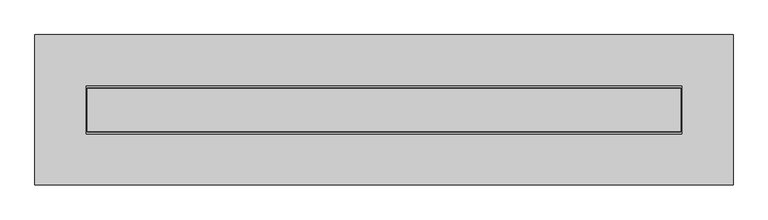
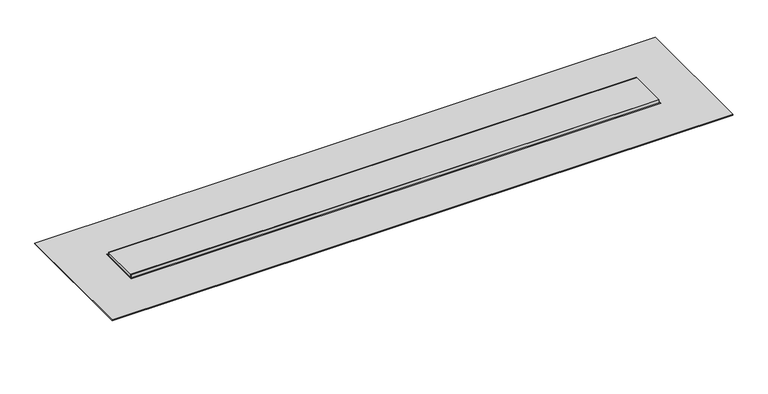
"""IFC4 building model written with IfcOpenShell, lengths in millimetres: sanitary terminal geometry, NLRS_PF_52_UN_Multi TAF in_uitloop_Easydrain : Multi TAF zijuitloop hoog 50mm, zij-ingang 40mm."""

import ifcopenshell
import ifcopenshell.guid

model = None  # the IFC model being written
_history = None  # IfcOwnerHistory: only IFC2X3 demands one
_inside = {}  # id of a spatial element -> (the spatial element, [elements in it])
_under = {}  # id of a project, library or spatial element -> (it, [spatial elements below it])
_declared = {}  # id of a project -> (the project, [libraries it declares])
_typed = {}  # id of a type object -> (the type object, [elements of that type])
_made_of = {}  # id of a material, layer set ... -> (it, [elements and type objects made of it])


def new_model(schema):
    """Start an empty IFC model of exactly this schema.

    Asked for "IFC4X3", IfcOpenShell would pick the latest addendum, in which some entities
    have other attributes; the version numbers below select the first issue.
    IFC2X3 requires an IfcOwnerHistory on every rooted entity: one is made here for all.
    """
    global model, _history
    if schema == "IFC4X3":
        model = ifcopenshell.file(schema_version=(4, 3, 0, 0))
    else:
        model = ifcopenshell.file(schema=schema)
    _inside.clear()
    _under.clear()
    _declared.clear()
    _typed.clear()
    _made_of.clear()
    _history = None
    if model.schema == "IFC2X3":
        org = make("IfcOrganization", Name="unknown")
        user = make(
            "IfcPersonAndOrganization",
            ThePerson=make("IfcPerson", FamilyName="unknown"),
            TheOrganization=org,
        )
        app = make(
            "IfcApplication",
            ApplicationDeveloper=org,
            Version="unknown",
            ApplicationFullName="unknown",
            ApplicationIdentifier="unknown",
        )
        _history = make(
            "IfcOwnerHistory",
            OwningUser=user,
            OwningApplication=app,
            ChangeAction="ADDED",
            CreationDate=0,
        )
    return model


def make(cls, **values):
    """One entity of the class cls with the attributes given. An attribute that is None is left unset."""
    return model.create_entity(
        cls, **{name: value for name, value in values.items() if value is not None}
    )


def rooted(cls, **values):
    """An entity with a GlobalId (a new one), such as an element, a storey or a relation."""
    return make(cls, GlobalId=ifcopenshell.guid.new(), OwnerHistory=_history, **values)


def si_unit(unit_type, name, prefix=None):
    """IfcSIUnit, for example si_unit("LENGTHUNIT", "METRE", prefix="MILLI")."""
    return make("IfcSIUnit", UnitType=unit_type, Prefix=prefix, Name=name)


def assignment(units):
    """IfcUnitAssignment: the units of a project."""
    return None if units is None else make("IfcUnitAssignment", Units=units)


def point(xyz):
    """IfcCartesianPoint."""
    return None if xyz is None else make("IfcCartesianPoint", Coordinates=xyz)


def direction(xyz):
    """IfcDirection."""
    return None if xyz is None else make("IfcDirection", DirectionRatios=xyz)


def frame(location, z_axis=None, x_axis=None):
    """IfcAxis2Placement3D, a coordinate frame: its origin and axes. An axis left out is left unset."""
    return make(
        "IfcAxis2Placement3D",
        Location=point(location),
        Axis=direction(z_axis),
        RefDirection=direction(x_axis),
    )


def origin():
    """The frame at (0, 0, 0) with its axes left unset."""
    return frame((0.0, 0.0, 0.0))


def place(relative_to, where):
    """IfcLocalPlacement: puts the frame where relative to a parent placement (None: the world)."""
    return make(
        "IfcLocalPlacement", PlacementRelTo=relative_to, RelativePlacement=where
    )


def context(
    kind, dimensions, precision=None, world=None, true_north=None, identifier=None
):
    """IfcGeometricRepresentationContext, for example the 3D "Model" context."""
    return make(
        "IfcGeometricRepresentationContext",
        ContextIdentifier=identifier,
        ContextType=kind,
        CoordinateSpaceDimension=dimensions,
        Precision=precision,
        WorldCoordinateSystem=world,
        TrueNorth=true_north,
    )


def project(units=None, contexts=None):
    """IfcProject with its units and contexts."""
    return rooted(
        "IfcProject",
        Name="project",
        RepresentationContexts=contexts,
        UnitsInContext=assignment(units),
    )


def spatial(cls, under=None, at=None, **own):
    """A site, building, storey or space (cls), placed at a placement, below another one or the project."""
    s = rooted(cls, ObjectPlacement=at, **own)
    if under is not None:
        _under.setdefault(under.id(), (under, []))[1].append(s)
    return s


def polyline(points):
    """IfcPolyline through the points."""
    return make("IfcPolyline", Points=[point(p) for p in points])


def circle_curve(where, radius):
    """IfcCircle in the frame where."""
    return make("IfcCircle", Position=where, Radius=radius)


def outline(outer, holes=None, kind="AREA"):
    """IfcArbitraryClosedProfileDef: a profile drawn as a closed curve; with holes, ...WithVoids."""
    if holes is None:
        return make("IfcArbitraryClosedProfileDef", ProfileType=kind, OuterCurve=outer)
    return make(
        "IfcArbitraryProfileDefWithVoids",
        ProfileType=kind,
        OuterCurve=outer,
        InnerCurves=holes,
    )


def extrude(swept, where, along, depth):
    """IfcExtrudedAreaSolid: the profile swept, set in the frame where, extruded along a direction by depth."""
    return make(
        "IfcExtrudedAreaSolid",
        SweptArea=swept,
        Position=where,
        ExtrudedDirection=direction(along),
        Depth=depth,
    )


def faces_of(points, faces, orient=None, outer=None):
    """IfcFace entities. A face is a list of loops; a loop is a list of indices into points, from 0.

    orient and outer hold one flag for each loop. By default every Orientation is true, the
    first loop of a face is its IfcFaceOuterBound and the others are IfcFaceBound.
    """
    made = []
    for i, loops in enumerate(faces):
        bounds = []
        for j, loop in enumerate(loops):
            is_outer = j == 0 if outer is None else outer[i][j]
            bounds.append(
                make(
                    "IfcFaceOuterBound" if is_outer else "IfcFaceBound",
                    Bound=make("IfcPolyLoop", Polygon=[points[k] for k in loop]),
                    Orientation=True if orient is None else orient[i][j],
                )
            )
        made.append(make("IfcFace", Bounds=bounds))
    return made


def faceted_brep(points, faces, orient=None, outer=None, voids=None):
    """IfcFacetedBrep: a solid bounded by flat faces; with voids (closed shells), ...WithVoids."""
    shared = [point(p) for p in points]
    hull = make("IfcClosedShell", CfsFaces=faces_of(shared, faces, orient, outer))
    if voids is None:
        return make("IfcFacetedBrep", Outer=hull)
    return make(
        "IfcFacetedBrepWithVoids",
        Outer=hull,
        Voids=[
            make(cls, CfsFaces=faces_of(shared, fs, o, b)) for cls, fs, o, b in voids
        ],
    )


def shape(context_of_items, identifier, shape_type, items):
    """IfcShapeRepresentation: the items that make up one representation, for example the "Body"."""
    return make(
        "IfcShapeRepresentation",
        ContextOfItems=context_of_items,
        RepresentationIdentifier=identifier,
        RepresentationType=shape_type,
        Items=items,
    )


def source(mapping_origin, context_of_items, identifier, shape_type, items):
    """IfcRepresentationMap: a shape defined once, which mapped items show again and again."""
    return make(
        "IfcRepresentationMap",
        MappingOrigin=mapping_origin,
        MappedRepresentation=shape(context_of_items, identifier, shape_type, items),
    )


def transform(
    local_origin,
    x_axis=None,
    y_axis=None,
    z_axis=None,
    scale=None,
    scale2=None,
    scale3=None,
    uniform=True,
):
    """IfcCartesianTransformationOperator3D, or its non-uniform kind. x_axis, y_axis, z_axis: its Axis1, 2, 3."""
    if uniform:
        return make(
            "IfcCartesianTransformationOperator3D",
            Axis1=direction(x_axis),
            Axis2=direction(y_axis),
            LocalOrigin=point(local_origin),
            Scale=scale,
            Axis3=direction(z_axis),
        )
    return make(
        "IfcCartesianTransformationOperator3DnonUniform",
        Axis1=direction(x_axis),
        Axis2=direction(y_axis),
        LocalOrigin=point(local_origin),
        Scale=scale,
        Axis3=direction(z_axis),
        Scale2=scale2,
        Scale3=scale3,
    )


def mapped(mapping_source, mapping_target):
    """IfcMappedItem: shows the shape of a source again, moved by a transform."""
    return make(
        "IfcMappedItem", MappingSource=mapping_source, MappingTarget=mapping_target
    )


def made_of(thing, what):
    """Note that an element or type object is made of a material, layer set ...; save() writes the relation."""
    if what is not None:
        _made_of.setdefault(what.id(), (what, []))[1].append(thing)
    return thing


def element(
    cls,
    number,
    at=None,
    inside=None,
    cuts=None,
    type_object=None,
    material=None,
    context=None,
    identifier="Body",
    shape_type=None,
    held_by="IfcProductDefinitionShape",
    body=None,
    shapes=None,
    **own,
):
    """One element of the class cls, such as IfcWall. Its Tag is "e" and its number.

    at: its placement. inside: the storey or other place that contains it. cuts: it is an
    opening in that element (IfcRelVoidsElement). A single representation is given by context,
    identifier, shape_type and body (its items); several are given by shapes. held_by: the class
    of the entity that holds the representations. save() writes the other relations.
    """
    e = rooted(cls, Tag="e%d" % number, ObjectPlacement=at, **own)
    if body is not None:
        shapes = [shape(context, identifier, shape_type, body)]
    if shapes is not None:
        e.Representation = make(held_by, Representations=shapes)
    if inside is not None:
        _inside.setdefault(inside.id(), (inside, []))[1].append(e)
    if cuts is not None:
        rooted(
            "IfcRelVoidsElement", RelatingBuildingElement=cuts, RelatedOpeningElement=e
        )
    if type_object is not None:
        _typed.setdefault(type_object.id(), (type_object, []))[1].append(e)
    return made_of(e, material)


def aggregate(whole, parts):
    """IfcRelAggregates: a whole, such as a stair, and the parts it consists of."""
    return rooted("IfcRelAggregates", RelatingObject=whole, RelatedObjects=parts)


def save(model, path):
    """Write the relations noted so far, then the file.

    IfcRelAggregates (storeys below a building ...), IfcRelContainedInSpatialStructure (elements
    in a storey), IfcRelDefinesByType, IfcRelAssociatesMaterial and IfcRelDeclares: one each for
    every whole, place, type object, material and project.
    """
    for whole, parts in _under.values():
        aggregate(whole, parts)
    for where, things in _inside.values():
        rooted(
            "IfcRelContainedInSpatialStructure",
            RelatedElements=things,
            RelatingStructure=where,
        )
    for kind, things in _typed.values():
        rooted("IfcRelDefinesByType", RelatedObjects=things, RelatingType=kind)
    for what, things in _made_of.values():
        rooted("IfcRelAssociatesMaterial", RelatedObjects=things, RelatingMaterial=what)
    for by, libraries in _declared.values():
        rooted("IfcRelDeclares", RelatingContext=by, RelatedDefinitions=libraries)
    model.write(path)


def plane_surface(at):
    """IfcPlane: the flat surface through the origin of the frame at, square to its z axis."""
    return make("IfcPlane", Position=at)


def cylinder_surface(at, radius):
    """IfcCylindricalSurface: all points at the distance radius from the z axis of the frame at."""
    return make("IfcCylindricalSurface", Position=at, Radius=radius)


def revolved_surface(curve, axis_point, axis_direction):
    """IfcSurfaceOfRevolution: the curve turned about the line through axis_point along axis_direction."""
    return make(
        "IfcSurfaceOfRevolution",
        SweptCurve=make("IfcArbitraryOpenProfileDef", ProfileType="CURVE", Curve=curve),
        AxisPosition=make("IfcAxis1Placement", Location=point(axis_point), Axis=direction(axis_direction)),
    )


def advanced_brep(points, edges, surfaces, faces):
    """IfcAdvancedBrep: a solid bounded by faces that lie on surfaces and meet in shared edges.

    An edge is (start, end): straight between two places in points (the first is 0);
    or (start, end, curve); or (start, end, curve, False) where it runs against its curve.
    A face is (place in surfaces, loops), or (place, loops, False) where it looks against
    its surface's normal. A loop lists edges by number (the first is 1), with a minus sign
    where the edge is run from its end to its start. The first loop is the outer one.
    """
    corners = [point(p) for p in points]
    vertices = [make("IfcVertexPoint", VertexGeometry=c) for c in corners]
    made = []
    for start, end, *more in edges:
        made.append(
            make(
                "IfcEdgeCurve",
                EdgeStart=vertices[start],
                EdgeEnd=vertices[end],
                EdgeGeometry=more[0] if more else make("IfcPolyline", Points=[corners[start], corners[end]]),
                SameSense=more[1] if len(more) > 1 else True,
            )
        )
    hull = []
    for where, loops, *sense in faces:
        bounds = []
        for j, loop in enumerate(loops):
            ring = [make("IfcOrientedEdge", EdgeElement=made[abs(k) - 1], Orientation=k > 0) for k in loop]
            bounds.append(
                make(
                    "IfcFaceOuterBound" if j == 0 else "IfcFaceBound",
                    Bound=make("IfcEdgeLoop", EdgeList=ring),
                    Orientation=True,
                )
            )
        hull.append(make("IfcAdvancedFace", Bounds=bounds, FaceSurface=surfaces[where], SameSense=sense[0] if sense else True))
    return make("IfcAdvancedBrep", Outer=make("IfcClosedShell", CfsFaces=hull))


def sanitary_terminal_83d6f62a(model_context):
    return source(origin(), model_context, "Body", "SolidModel", [
        advanced_brep(
        [(895.5, 0.0, -67.0), (889.5, 0.0, -67.0), (892.5, 0.0, -67.0), (895.5, 0.0, -89.5), (889.5, 0.0, -89.5), (907.5, 0.0, -97.0), (877.5, 0.0, -97.0), (892.5, 0.0, -97.0)],
        [
            (0, 1, circle_curve(frame((892.5, 0.0, -67.0), z_axis=(0.0, 0.0, 1.0), x_axis=(-1.0, 0.0, 0.0)), 3.0)),
            (1, 2),
            (2, 0),
            (1, 0, circle_curve(frame((892.5, 0.0, -67.0), z_axis=(0.0, 0.0, 1.0), x_axis=(-1.0, 0.0, 0.0)), 3.0)),
            (3, 4, circle_curve(frame((892.5, 0.0, -89.5), z_axis=(0.0, 0.0, 1.0), x_axis=(-1.0, 0.0, 0.0)), 3.0)),
            (4, 1),
            (0, 3),
            (4, 3, circle_curve(frame((892.5, 0.0, -89.5), z_axis=(0.0, 0.0, 1.0), x_axis=(-1.0, 0.0, 0.0)), 3.0)),
            (5, 6, circle_curve(frame((892.5, 0.0, -97.0), z_axis=(0.0, 0.0, 1.0), x_axis=(-1.0, 0.0, 0.0)), 15.0)),
            (6, 4),
            (3, 5),
            (6, 5, circle_curve(frame((892.5, 0.0, -97.0), z_axis=(0.0, 0.0, 1.0), x_axis=(-1.0, 0.0, 0.0)), 15.0)),
            (7, 6),
            (5, 7),
        ],
        [
            plane_surface(frame((892.5, 0.0, -67.0), z_axis=(0.0, 0.0, 1.0), x_axis=(-1.0, 0.0, 0.0))),
            cylinder_surface(frame((892.5, 0.0, -105.1782032), z_axis=(0.0, 0.0, -1.0), x_axis=(-1.0, 0.0, 0.0)), 3.0),
            revolved_surface(polyline([(889.5, 0.0, -89.5), (877.5, 0.0, -97.0)]), (892.5, 0.0, -105.1782032), (0.0, 0.0, -1.0)),
            plane_surface(frame((892.5, 0.0, -97.0), z_axis=(0.0, 0.0, -1.0), x_axis=(-1.0, 0.0, 0.0))),
        ],
        [
            (0, [[1, 2, 3]]),
            (0, [[4, -3, -2]]),
            (1, [[5, 6, -1, 7]]),
            (1, [[8, -7, -4, -6]]),
            (2, [[9, 10, -5, 11]]),
            (2, [[12, -11, -8, -10]]),
            (3, [[13, -9, 14]]),
            (3, [[-14, -12, -13]]),
        ],
    ),
        faceted_brep([(882.5, 10.0, -67.0), (902.5, 10.0, -67.0), (902.5, -10.0, -67.0), (882.5, -10.0, -67.0), (877.5, 15.0, -27.0), (877.5, -15.0, -27.0), (907.5, -15.0, -27.0), (907.5, 15.0, -27.0)], [[[0, 1, 2, 3]], [[4, 5, 6, 7]], [[5, 4, 0, 3]], [[6, 5, 3, 2]], [[7, 6, 2, 1]], [[4, 7, 1, 0]]]),
        advanced_brep(
        [(-189.5, 0.0, -67.0), (-195.5, 0.0, -67.0), (-192.5, 0.0, -67.0), (-189.5, 0.0, -89.5), (-195.5, 0.0, -89.5), (-177.5, 0.0, -97.0), (-207.5, 0.0, -97.0), (-192.5, 0.0, -97.0)],
        [
            (0, 1, circle_curve(frame((-192.5, 0.0, -67.0), z_axis=(0.0, 0.0, 1.0), x_axis=(-1.0, 0.0, 0.0)), 3.0)),
            (1, 2),
            (2, 0),
            (1, 0, circle_curve(frame((-192.5, 0.0, -67.0), z_axis=(0.0, 0.0, 1.0), x_axis=(-1.0, 0.0, 0.0)), 3.0)),
            (3, 4, circle_curve(frame((-192.5, 0.0, -89.5), z_axis=(0.0, 0.0, 1.0), x_axis=(-1.0, 0.0, 0.0)), 3.0)),
            (4, 1),
            (0, 3),
            (4, 3, circle_curve(frame((-192.5, 0.0, -89.5), z_axis=(0.0, 0.0, 1.0), x_axis=(-1.0, 0.0, 0.0)), 3.0)),
            (5, 6, circle_curve(frame((-192.5, 0.0, -97.0), z_axis=(0.0, 0.0, 1.0), x_axis=(-1.0, 0.0, 0.0)), 15.0)),
            (6, 4),
            (3, 5),
            (6, 5, circle_curve(frame((-192.5, 0.0, -97.0), z_axis=(0.0, 0.0, 1.0), x_axis=(-1.0, 0.0, 0.0)), 15.0)),
            (7, 6),
            (5, 7),
        ],
        [
            plane_surface(frame((-192.5, 0.0, -67.0), z_axis=(0.0, 0.0, 1.0), x_axis=(-1.0, 0.0, 0.0))),
            cylinder_surface(frame((-192.5, 0.0, -105.1782032), z_axis=(0.0, 0.0, -1.0), x_axis=(-1.0, 0.0, 0.0)), 3.0),
            revolved_surface(polyline([(-195.5, 0.0, -89.5), (-207.5, 0.0, -97.0)]), (-192.5, 0.0, -105.1782032), (0.0, 0.0, -1.0)),
            plane_surface(frame((-192.5, 0.0, -97.0), z_axis=(0.0, 0.0, -1.0), x_axis=(-1.0, 0.0, 0.0))),
        ],
        [
            (0, [[1, 2, 3]]),
            (0, [[4, -3, -2]]),
            (1, [[5, 6, -1, 7]]),
            (1, [[8, -7, -4, -6]]),
            (2, [[9, 10, -5, 11]]),
            (2, [[12, -11, -8, -10]]),
            (3, [[13, -9, 14]]),
            (3, [[-14, -12, -13]]),
        ],
    ),
        faceted_brep([(-202.5, 10.0, -67.0), (-182.5, 10.0, -67.0), (-182.5, -10.0, -67.0), (-202.5, -10.0, -67.0), (-207.5, 15.0, -27.0), (-207.5, -15.0, -27.0), (-177.5, -15.0, -27.0), (-177.5, 15.0, -27.0)], [[[0, 1, 2, 3]], [[4, 5, 6, 7]], [[5, 4, 0, 3]], [[6, 5, 3, 2]], [[7, 6, 2, 1]], [[4, 7, 1, 0]]]),
        extrude(outline(polyline([(930.5, 42.0), (930.5, -42.0), (-230.5, -42.0), (-230.5, 42.0), (930.5, 42.0)])), frame((0.0, 0.0, -7.0), z_axis=(0.0, 0.0, 1.0), x_axis=(1.0, 0.0, 0.0)), (0.0, 0.0, 1.0), 7.0),
        extrude(outline(polyline([(930.5, 43.0), (930.5, 42.0), (-230.5, 42.0), (-230.5, 43.0), (930.5, 43.0)])), frame((0.0, 0.0, -7.0), z_axis=(0.0, 0.0, 1.0), x_axis=(1.0, 0.0, 0.0)), (0.0, 0.0, 1.0), 7.0),
        extrude(outline(polyline([(930.5, -43.0), (-230.5, -43.0), (-230.5, -42.0), (930.5, -42.0), (930.5, -43.0)])), frame((0.0, 0.0, -7.0), z_axis=(0.0, 0.0, 1.0), x_axis=(1.0, 0.0, 0.0)), (0.0, 0.0, 1.0), 7.0),
        extrude(outline(polyline([(1032.5, 147.0), (1032.5, -147.0), (-332.5, -147.0), (-332.5, 147.0), (1032.5, 147.0)]), holes=[polyline([(932.5, 47.0), (-232.5, 47.0), (-232.5, -47.0), (932.5, -47.0), (932.5, 47.0)])]), frame((0.0, 0.0, -8.0), z_axis=(0.0, 0.0, 1.0), x_axis=(1.0, 0.0, 0.0)), (0.0, 0.0, 1.0), 2.0),
        faceted_brep([(932.5, 47.0, -27.0), (-232.5, 47.0, -27.0), (-232.5, 47.0, -9.0), (932.5, 47.0, -9.0), (-232.5, -47.0, -27.0), (932.5, -47.0, -27.0), (932.5, -47.0, -9.0), (-232.5, -47.0, -9.0), (950.0, 64.5, -7.0), (-250.0, 64.5, -7.0), (-250.0, -81.5, -7.0), (950.0, -81.5, -7.0), (950.0, 64.5, -9.0), (950.0, -81.5, -9.0), (-250.0, -81.5, -9.0), (-250.0, 64.5, -9.0)], [[[0, 1, 2, 3]], [[4, 5, 6, 7]], [[1, 0, 5, 4]], [[5, 0, 3, 6]], [[8, 9, 10, 11]], [[1, 4, 7, 2]], [[12, 13, 14, 15], [3, 2, 7, 6]], [[9, 8, 12, 15]], [[10, 9, 15, 14]], [[11, 10, 14, 13]], [[8, 11, 13, 12]]]),
    ])


if __name__ == "__main__":
    model = new_model("IFC4")
    model_context = context("Model", 3, world=origin())
    ifc_project = project(units=[si_unit("LENGTHUNIT", "METRE", prefix="MILLI")], contexts=[model_context])
    site = spatial("IfcSite", under=ifc_project)
    building = spatial("IfcBuilding", under=site)
    placement = place(None, origin())
    sanitary_terminal_shape = sanitary_terminal_83d6f62a(model_context)
    element("IfcSanitaryTerminal", 1, ObjectType="NLRS_PF_52_UN_Multi TAF in_uitloop_Easydrain : Multi TAF zijuitloop hoog 50mm, zij-ingang 40mm", at=placement, inside=building, context=model_context, shape_type="MappedRepresentation", body=[
        mapped(sanitary_terminal_shape, transform((0.0, 0.0, 0.0), x_axis=(1.0, 0.0, 0.0), y_axis=(0.0, 1.0, 0.0), z_axis=(0.0, 0.0, 1.0))),
    ])
    save(model, "model.ifc")
